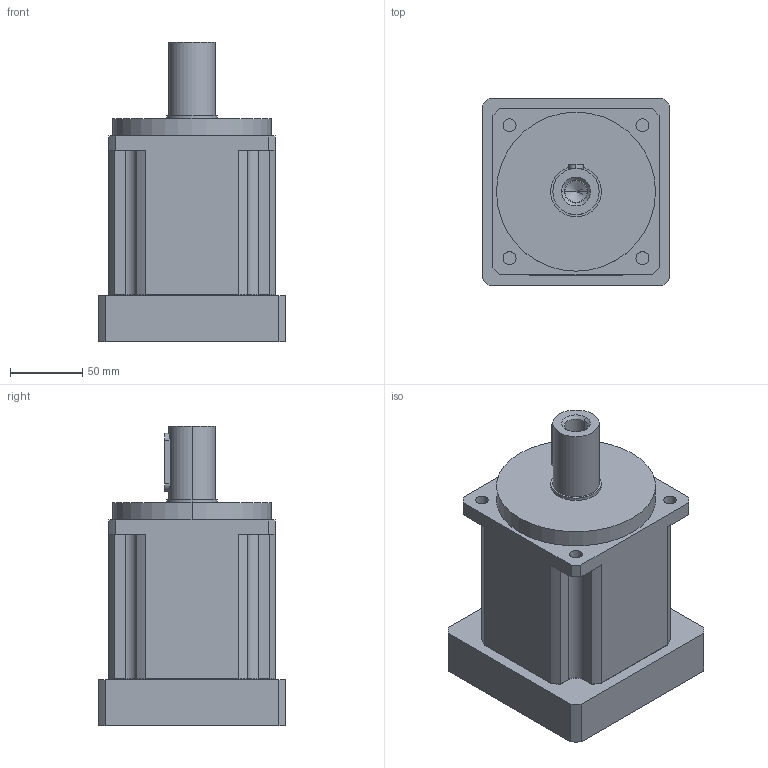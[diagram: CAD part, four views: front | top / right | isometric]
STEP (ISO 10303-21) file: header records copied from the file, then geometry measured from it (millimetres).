
FILE_DESCRIPTION (( 'STEP AP203' ), '1' );
FILE_NAME ('IB115L1.STEP', '2015-11-19T01:59:08', ( 'User' ), ( 'china' ), 'SwSTEP 2.0', 'SolidWorks 2015', '' );
FILE_SCHEMA (( 'CONFIG_CONTROL_DESIGN' ));
Length unit declared in the file: millimetre
Products named in the file (1): IB115L1
Bounding box: 130 x 130 x 207.5 mm (x, y, z)
Volume: 1898553.5 mm3; surface area: 120918.7 mm2
Topology: 1 solids, 1 shells, 133 faces, 321 edges, 197 vertices
Faces by surface type: cylinder 73, plane 36, cone 12, torus 12
Entity records: 4024 total; most frequent: CARTESIAN_POINT 793, DIRECTION 701, ORIENTED_EDGE 622, EDGE_CURVE 311, AXIS2_PLACEMENT_3D 275, VERTEX_POINT 197, EDGE_LOOP 158, LINE 151
